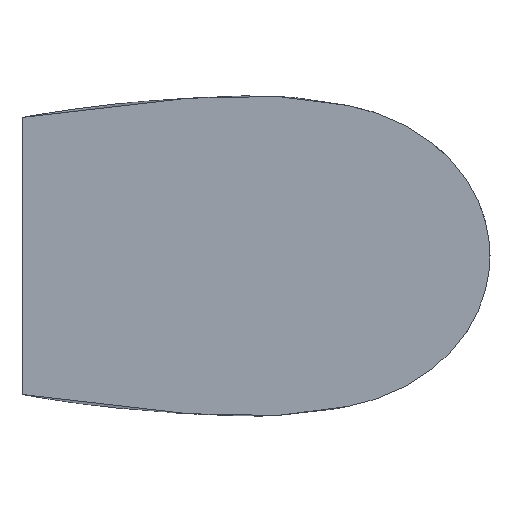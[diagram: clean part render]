
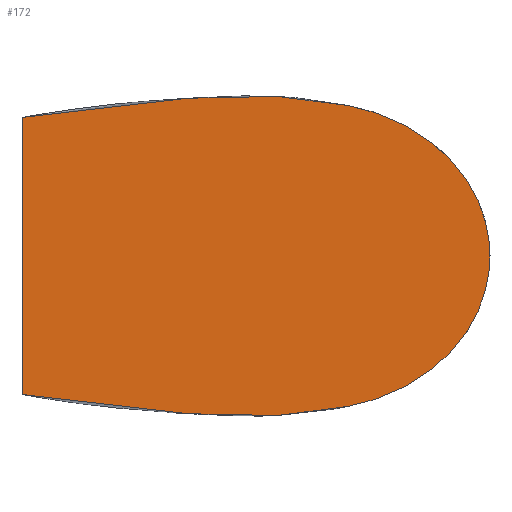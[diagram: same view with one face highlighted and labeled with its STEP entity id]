
A CAD part, left-side view. The second image highlights one B-rep face of the part: STEP entity #172.
In plain terms, the highlighted planar face has unit normal (-1, 0, 0).
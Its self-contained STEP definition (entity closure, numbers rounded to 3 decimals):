
#2=DIRECTION('',(0.,0.,-1.));
#3=VECTOR('',#2,2.105);
#4=CARTESIAN_POINT('',(-9.,-0.3,1.052));
#5=LINE('',#4,#3);
#10=CARTESIAN_POINT('',(-9.,-0.3,1.052));
#11=CARTESIAN_POINT('',(-9.,-0.448,1.079));
#12=CARTESIAN_POINT('',(-9.,-0.741,1.125));
#13=CARTESIAN_POINT('',(-9.,-1.107,1.166));
#14=CARTESIAN_POINT('',(-9.,-1.404,1.19));
#15=CARTESIAN_POINT('',(-9.,-1.592,1.2));
#16=CARTESIAN_POINT('',(-9.,-1.726,1.206));
#17=CARTESIAN_POINT('',(-9.,-1.804,1.207));
#18=CARTESIAN_POINT('',(-9.,-1.882,1.213));
#19=CARTESIAN_POINT('',(-9.,-1.98,1.216));
#20=CARTESIAN_POINT('',(-9.,-2.151,1.217));
#21=CARTESIAN_POINT('',(-9.,-2.38,1.206));
#22=CARTESIAN_POINT('',(-9.,-2.668,1.166));
#23=CARTESIAN_POINT('',(-9.,-2.96,1.106));
#24=CARTESIAN_POINT('',(-9.,-3.24,0.987));
#25=CARTESIAN_POINT('',(-9.,-3.491,0.81));
#26=CARTESIAN_POINT('',(-9.,-3.693,0.578));
#27=CARTESIAN_POINT('',(-9.,-3.825,0.3));
#28=CARTESIAN_POINT('',(-9.,-3.855,0.099));
#29=CARTESIAN_POINT('',(-9.,-3.855,0.));
#31=CARTESIAN_POINT('',(-9.,-0.3,-1.052));
#32=CARTESIAN_POINT('',(-9.,-0.448,-1.079));
#33=CARTESIAN_POINT('',(-9.,-0.741,-1.125));
#34=CARTESIAN_POINT('',(-9.,-1.107,-1.166));
#35=CARTESIAN_POINT('',(-9.,-1.404,-1.19));
#36=CARTESIAN_POINT('',(-9.,-1.592,-1.2));
#37=CARTESIAN_POINT('',(-9.,-1.726,-1.206));
#38=CARTESIAN_POINT('',(-9.,-1.804,-1.207));
#39=CARTESIAN_POINT('',(-9.,-1.882,-1.213));
#40=CARTESIAN_POINT('',(-9.,-1.98,-1.216));
#41=CARTESIAN_POINT('',(-9.,-2.151,-1.217));
#42=CARTESIAN_POINT('',(-9.,-2.38,-1.206));
#43=CARTESIAN_POINT('',(-9.,-2.668,-1.166));
#44=CARTESIAN_POINT('',(-9.,-2.96,-1.106));
#45=CARTESIAN_POINT('',(-9.,-3.24,-0.987));
#46=CARTESIAN_POINT('',(-9.,-3.491,-0.81));
#47=CARTESIAN_POINT('',(-9.,-3.693,-0.578));
#48=CARTESIAN_POINT('',(-9.,-3.825,-0.3));
#49=CARTESIAN_POINT('',(-9.,-3.855,-0.099));
#50=CARTESIAN_POINT('',(-9.,-3.855,0.));
#137=CARTESIAN_POINT('',(-9.,-0.3,1.052));
#138=CARTESIAN_POINT('',(-9.,-0.3,-1.052));
#139=VERTEX_POINT('',#137);
#140=VERTEX_POINT('',#138);
#141=VERTEX_POINT('',#29);
#160=CARTESIAN_POINT('',(-9.,0.,0.));
#161=DIRECTION('',(1.,0.,0.));
#162=DIRECTION('',(0.,0.,-1.));
#163=AXIS2_PLACEMENT_3D('',#160,#161,#162);
#164=PLANE('',#163);
#165=ORIENTED_EDGE('',*,*,#147,.F.);
#167=ORIENTED_EDGE('',*,*,#166,.T.);
#169=ORIENTED_EDGE('',*,*,#168,.F.);
#170=EDGE_LOOP('',(#165,#167,#169));
#171=FACE_OUTER_BOUND('',#170,.F.);
#172=ADVANCED_FACE('',(#171),#164,.F.);
#30=B_SPLINE_CURVE_WITH_KNOTS('',3,(#10,#11,#12,#13,#14,#15,#16,#17,#18,#19,#20,
#21,#22,#23,#24,#25,#26,#27,#28,#29),.UNSPECIFIED.,.F.,.F.,(4,1,1,1,1,1,1,1,1,1,
1,1,1,1,1,1,1,4),(0.,0.117,0.233,0.291,
0.35,0.379,0.393,0.408,
0.437,0.466,0.533,0.6,
0.666,0.733,0.8,0.867,
0.933,1.),.UNSPECIFIED.);
#51=B_SPLINE_CURVE_WITH_KNOTS('',3,(#31,#32,#33,#34,#35,#36,#37,#38,#39,#40,#41,
#42,#43,#44,#45,#46,#47,#48,#49,#50),.UNSPECIFIED.,.F.,.F.,(4,1,1,1,1,1,1,1,1,1,
1,1,1,1,1,1,1,4),(0.,0.117,0.233,0.291,
0.35,0.379,0.393,0.408,
0.437,0.466,0.533,0.6,
0.666,0.733,0.8,0.867,
0.933,1.),.UNSPECIFIED.);
#147=EDGE_CURVE('',#139,#140,#5,.T.);
#166=EDGE_CURVE('',#139,#141,#30,.T.);
#168=EDGE_CURVE('',#140,#141,#51,.T.);
